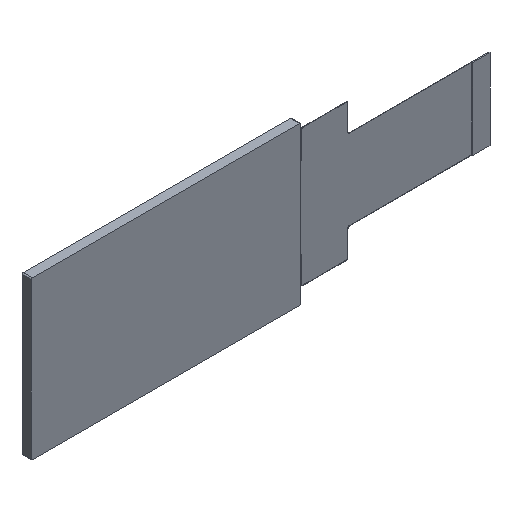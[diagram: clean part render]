
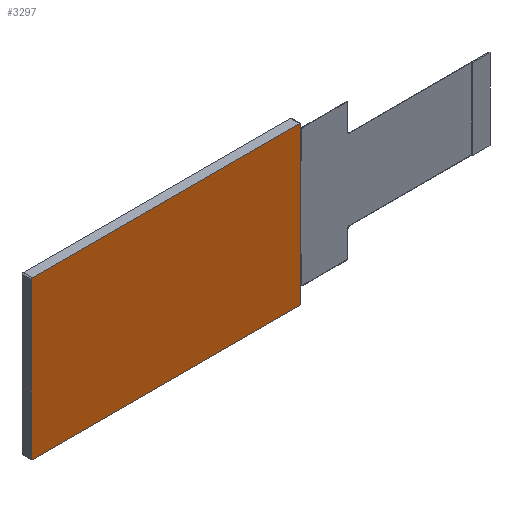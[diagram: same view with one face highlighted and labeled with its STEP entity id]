
A CAD part, isometric view. The second image highlights one B-rep face of the part: STEP entity #3297.
In plain terms, the highlighted planar face has unit normal (0, -1, 0).
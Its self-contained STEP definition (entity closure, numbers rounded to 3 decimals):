
#1 = CARTESIAN_POINT ( 'NONE',  ( 38.5, 0., 22.22 ) ) ;
#105 = DIRECTION ( 'NONE',  ( 0., 0., -1. ) ) ;
#232 = VECTOR ( 'NONE', #4480, 1000. ) ;
#336 = CARTESIAN_POINT ( 'NONE',  ( 38.2, 0., 22.52 ) ) ;
#373 = DIRECTION ( 'NONE',  ( 0., -1., 0. ) ) ;
#535 = ORIENTED_EDGE ( 'NONE', *, *, #6852, .T. ) ;
#1001 = CARTESIAN_POINT ( 'NONE',  ( 38.2, 0., -22.52 ) ) ;
#1008 = DIRECTION ( 'NONE',  ( 0., -1., 0. ) ) ;
#1192 = CARTESIAN_POINT ( 'NONE',  ( 38.5, 0., 22.52 ) ) ;
#1453 = CARTESIAN_POINT ( 'NONE',  ( 38.5, 0., -22.22 ) ) ;
#1511 = CARTESIAN_POINT ( 'NONE',  ( -38.2, 0., -22.52 ) ) ;
#1557 = EDGE_CURVE ( 'NONE', #8967, #2407, #7663, .T. ) ;
#1602 = EDGE_CURVE ( 'NONE', #8967, #5258, #6150, .T. ) ;
#2019 = LINE ( 'NONE', #7736, #5009 ) ;
#2022 = CARTESIAN_POINT ( 'NONE',  ( -38.5, 0., -22.22 ) ) ;
#2286 = ORIENTED_EDGE ( 'NONE', *, *, #2393, .T. ) ;
#2357 = LINE ( 'NONE', #1192, #232 ) ;
#2377 = ORIENTED_EDGE ( 'NONE', *, *, #5673, .F. ) ;
#2393 = EDGE_CURVE ( 'NONE', #4802, #2407, #9162, .T. ) ;
#2407 = VERTEX_POINT ( 'NONE', #336 ) ;
#2666 = ORIENTED_EDGE ( 'NONE', *, *, #1602, .T. ) ;
#2740 = CARTESIAN_POINT ( 'NONE',  ( 38.2, 0., 22.22 ) ) ;
#3166 = VECTOR ( 'NONE', #4640, 1000. ) ;
#3297 = ADVANCED_FACE ( 'NONE', ( #3601 ), #8857, .T. ) ;
#3378 = EDGE_CURVE ( 'NONE', #3518, #9734, #8972, .T. ) ;
#3518 = VERTEX_POINT ( 'NONE', #1001 ) ;
#3601 = FACE_OUTER_BOUND ( 'NONE', #9018, .T. ) ;
#4069 = DIRECTION ( 'NONE',  ( 0., -1., 0. ) ) ;
#4096 = CARTESIAN_POINT ( 'NONE',  ( 38.2, 0., -22.22 ) ) ;
#4161 = DIRECTION ( 'NONE',  ( 0., -1., 0. ) ) ;
#4204 = DIRECTION ( 'NONE',  ( 0., 0., -1. ) ) ;
#4207 = ORIENTED_EDGE ( 'NONE', *, *, #1557, .F. ) ;
#4299 = AXIS2_PLACEMENT_3D ( 'NONE', #6431, #4069, #4909 ) ;
#4480 = DIRECTION ( 'NONE',  ( 0., 0., -1. ) ) ;
#4640 = DIRECTION ( 'NONE',  ( 1., 0., 0. ) ) ;
#4773 = AXIS2_PLACEMENT_3D ( 'NONE', #8764, #1008, #105 ) ;
#4775 = CIRCLE ( 'NONE', #7958, 0.3 ) ;
#4780 = CARTESIAN_POINT ( 'NONE',  ( -38.5, 0., 22.52 ) ) ;
#4802 = VERTEX_POINT ( 'NONE', #1 ) ;
#4909 = DIRECTION ( 'NONE',  ( 0., 0., -1. ) ) ;
#4980 = DIRECTION ( 'NONE',  ( 0., 0., 1. ) ) ;
#5009 = VECTOR ( 'NONE', #5448, 1000. ) ;
#5258 = VERTEX_POINT ( 'NONE', #7233 ) ;
#5349 = EDGE_CURVE ( 'NONE', #7601, #5258, #5764, .T. ) ;
#5448 = DIRECTION ( 'NONE',  ( -1., 0., 0. ) ) ;
#5673 = EDGE_CURVE ( 'NONE', #3518, #9256, #2019, .T. ) ;
#5764 = LINE ( 'NONE', #10040, #9400 ) ;
#5915 = DIRECTION ( 'NONE',  ( 0., 0., -1. ) ) ;
#6150 = CIRCLE ( 'NONE', #4773, 0.3 ) ;
#6431 = CARTESIAN_POINT ( 'NONE',  ( 0., 0., 0. ) ) ;
#6585 = AXIS2_PLACEMENT_3D ( 'NONE', #4096, #8891, #8826 ) ;
#6852 = EDGE_CURVE ( 'NONE', #7601, #9256, #4775, .T. ) ;
#7233 = CARTESIAN_POINT ( 'NONE',  ( -38.5, 0., 22.22 ) ) ;
#7520 = ORIENTED_EDGE ( 'NONE', *, *, #3378, .T. ) ;
#7601 = VERTEX_POINT ( 'NONE', #2022 ) ;
#7663 = LINE ( 'NONE', #4780, #3166 ) ;
#7736 = CARTESIAN_POINT ( 'NONE',  ( -38.5, 0., -22.52 ) ) ;
#7835 = EDGE_CURVE ( 'NONE', #4802, #9734, #2357, .T. ) ;
#7958 = AXIS2_PLACEMENT_3D ( 'NONE', #9884, #373, #5915 ) ;
#8275 = CARTESIAN_POINT ( 'NONE',  ( -38.2, 0., 22.52 ) ) ;
#8764 = CARTESIAN_POINT ( 'NONE',  ( -38.2, 0., 22.22 ) ) ;
#8826 = DIRECTION ( 'NONE',  ( 0., 0., -1. ) ) ;
#8857 = PLANE ( 'NONE',  #4299 ) ;
#8891 = DIRECTION ( 'NONE',  ( 0., -1., 0. ) ) ;
#8967 = VERTEX_POINT ( 'NONE', #8275 ) ;
#8972 = CIRCLE ( 'NONE', #6585, 0.3 ) ;
#9018 = EDGE_LOOP ( 'NONE', ( #4207, #2666, #9747, #535, #2377, #7520, #9716, #2286 ) ) ;
#9162 = CIRCLE ( 'NONE', #9378, 0.3 ) ;
#9256 = VERTEX_POINT ( 'NONE', #1511 ) ;
#9378 = AXIS2_PLACEMENT_3D ( 'NONE', #2740, #4161, #4204 ) ;
#9400 = VECTOR ( 'NONE', #4980, 1000. ) ;
#9716 = ORIENTED_EDGE ( 'NONE', *, *, #7835, .F. ) ;
#9734 = VERTEX_POINT ( 'NONE', #1453 ) ;
#9747 = ORIENTED_EDGE ( 'NONE', *, *, #5349, .F. ) ;
#9884 = CARTESIAN_POINT ( 'NONE',  ( -38.2, 0., -22.22 ) ) ;
#10040 = CARTESIAN_POINT ( 'NONE',  ( -38.5, 0., 22.52 ) ) ;
